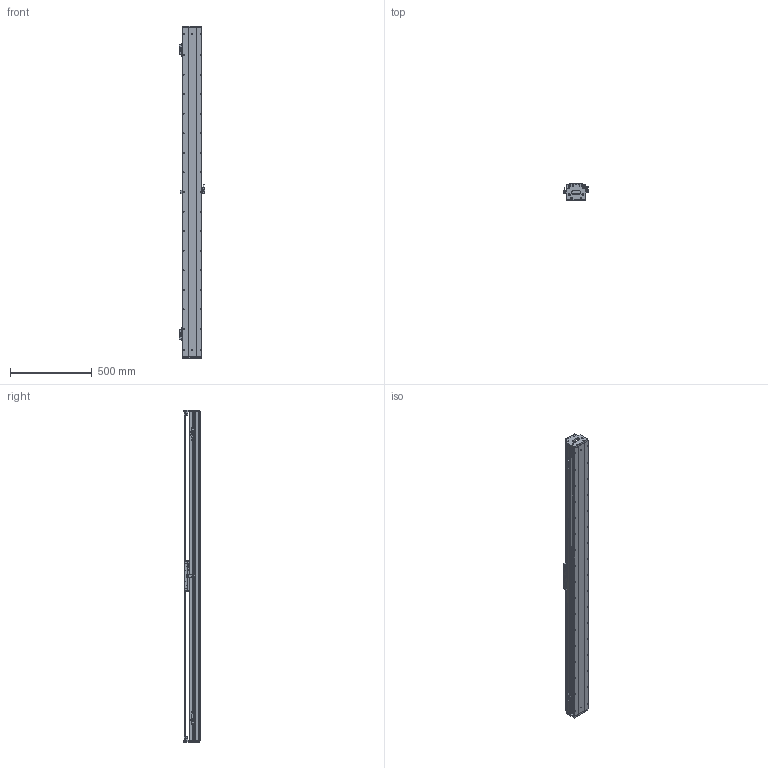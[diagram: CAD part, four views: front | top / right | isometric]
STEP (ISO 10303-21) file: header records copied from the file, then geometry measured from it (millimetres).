
FILE_DESCRIPTION (( 'STEP AP203' ), '1' );
FILE_NAME ('DKW119-C2-W060(T1740-L005-0.2).STEP', '2021-09-02T00:55:27', ( '微软用户' ), ( '微软中国' ), 'SwSTEP 2.0', 'SolidWorks 2018', '' );
FILE_SCHEMA (( 'CONFIG_CONTROL_DESIGN' ));
Length unit declared in the file: millimetre
Products named in the file (23): 砎蝶猾沭; RUS嫖掑喜; 12160-0000-003-00 DKW120詩湍嶺輸; DKW119-RU-DTJ-00 RU2黍杅芛盓殤; Ru2; 12160-0000-004-00  DKW120詩湍揤輸; 萇儂堤盄 ^DKW119-C2-W060(T1740-L005-0.2); RUS嫖掑郪璃; DKW119 单轴模组-拉钢带组件; CKMA01-W060-TRLxxx; CKM02-W060_00; pm-y65; DKW-HXJ-JY-00 遣喳砎蝶; DKW119-C2-W060(T1740-L005-0.2); 10980-0001-003-00 嫖萇羲壽嘐隅釱; 11062-0001-004-00 DKW119傷啣; 嫖萇羲壽蚾饜极; 06652-0001-004-00 DKW120嶺輸菜輸; 12018-0001-001-00 菁釱; 嫖萇羲壽蚾饜极A; 12018-0001-002-00 詩湍; MSB15-DG-U; DKW-SG-GYP-H-00 嫖萇覜茼え
Assembly tree (36 placements, depth 3):
  DKW119-C2-W060(T1740-L005-0.2)
    12018-0001-001-00 菁釱
    MSB15-DG-U  x2
    DKW119-RU-DTJ-00 RU2黍杅芛盓殤
    萇儂堤盄 ^DKW119-C2-W060(T1740-L005-0.2)
    CKMA01-W060-TRLxxx
    DKW119 单轴模组-拉钢带组件
      DKW-HXJ-JY-00 遣喳砎蝶  x4
      11062-0001-004-00 DKW119傷啣  x2
      06652-0001-004-00 DKW120嶺輸菜輸  x4
      12018-0001-002-00 詩湍
      砎蝶猾沭  x2
      12160-0000-003-00 DKW120詩湍嶺輸  x2
      12160-0000-004-00  DKW120詩湍揤輸  x2
    嫖萇羲壽蚾饜极
      pm-y65
      10980-0001-003-00 嫖萇羲壽嘐隅釱
    嫖萇羲壽蚾饜极A
      pm-y65  x2
      10980-0001-003-00 嫖萇羲壽嘐隅釱
    DKW-SG-GYP-H-00 嫖萇覜茼え
    RUS嫖掑郪璃
      RUS嫖掑喜
      Ru2
    CKM02-W060_00
Bounding box: 154.3 x 99 x 2036 mm (x, y, z)
Volume: 8714752.4 mm3; surface area: 2859825.4 mm2
Topology: 42 solids, 91 shells, 4346 faces, 11613 edges, 7406 vertices
Faces by surface type: plane 2150, cylinder 1527, cone 422, bspline 247
Entity records: 130844 total; most frequent: CARTESIAN_POINT 43665, ORIENTED_EDGE 17547, DIRECTION 16974, EDGE_CURVE 8814, AXIS2_PLACEMENT_3D 5792, VERTEX_POINT 5785, VECTOR 5390, LINE 5390
